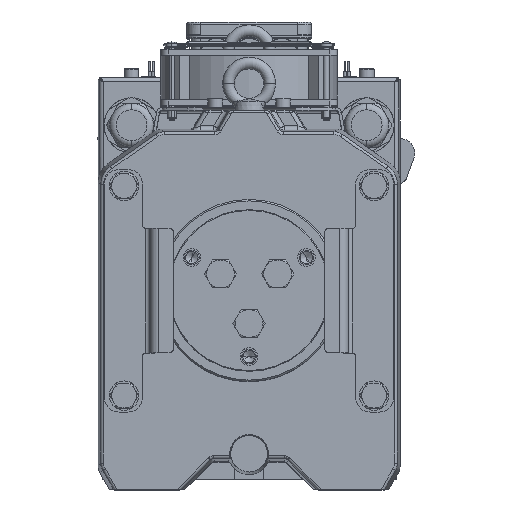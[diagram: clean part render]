
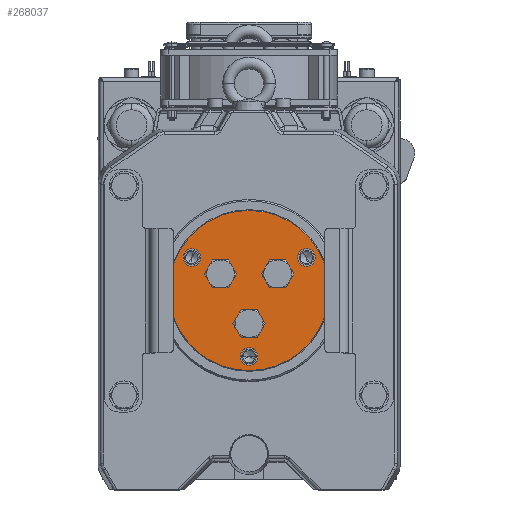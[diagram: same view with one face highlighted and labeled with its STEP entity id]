
A CAD part, top view. The second image highlights one B-rep face of the part: STEP entity #268037.
In plain terms, the highlighted planar face has unit normal (0, 0, 1) as drawn and (0, -1, 0) by its records, which use the part's own axes.
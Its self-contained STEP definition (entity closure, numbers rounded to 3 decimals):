
#267694=CARTESIAN_POINT('',(0.,0.,
0.));
#267695=DIRECTION('',(0.,-1.,0.));
#267696=DIRECTION('',(-1.,0.,0.));
#267697=AXIS2_PLACEMENT_3D('',#267694,#267695,#267696);
#267699=CARTESIAN_POINT('',(0.,0.,
0.));
#267700=DIRECTION('',(0.,-1.,0.));
#267701=DIRECTION('',(1.,0.,0.));
#267702=AXIS2_PLACEMENT_3D('',#267699,#267700,#267701);
#267704=CARTESIAN_POINT('',(0.,0.,-22.5));
#267705=DIRECTION('',(0.,-1.,0.));
#267706=DIRECTION('',(1.,0.,0.));
#267707=AXIS2_PLACEMENT_3D('',#267704,#267705,#267706);
#267709=CARTESIAN_POINT('',(0.,0.,-22.5));
#267710=DIRECTION('',(0.,-1.,0.));
#267711=DIRECTION('',(-1.,0.,0.));
#267712=AXIS2_PLACEMENT_3D('',#267709,#267710,#267711);
#267714=CARTESIAN_POINT('',(19.486,0.,11.25));
#267715=DIRECTION('',(0.,-1.,0.));
#267716=DIRECTION('',(-0.5,0.,0.866));
#267717=AXIS2_PLACEMENT_3D('',#267714,#267715,#267716);
#267719=CARTESIAN_POINT('',(19.486,0.,11.25));
#267720=DIRECTION('',(0.,-1.,0.));
#267721=DIRECTION('',(0.5,0.,-0.866));
#267722=AXIS2_PLACEMENT_3D('',#267719,#267720,#267721);
#267724=CARTESIAN_POINT('',(-19.486,0.,11.25));
#267725=DIRECTION('',(0.,-1.,0.));
#267726=DIRECTION('',(-0.5,0.,-0.866));
#267727=AXIS2_PLACEMENT_3D('',#267724,#267725,#267726);
#267729=CARTESIAN_POINT('',(-19.486,0.,11.25));
#267730=DIRECTION('',(0.,-1.,0.));
#267731=DIRECTION('',(0.5,0.,0.866));
#267732=AXIS2_PLACEMENT_3D('',#267729,#267730,#267731);
#267734=CARTESIAN_POINT('',(0.,0.,-45.));
#267735=DIRECTION('',(0.,-1.,0.));
#267736=DIRECTION('',(1.,0.,0.));
#267737=AXIS2_PLACEMENT_3D('',#267734,#267735,#267736);
#267739=CARTESIAN_POINT('',(0.,0.,-45.));
#267740=DIRECTION('',(0.,-1.,0.));
#267741=DIRECTION('',(-1.,0.,0.));
#267742=AXIS2_PLACEMENT_3D('',#267739,#267740,#267741);
#267744=CARTESIAN_POINT('',(38.971,0.,22.5));
#267745=DIRECTION('',(0.,-1.,0.));
#267746=DIRECTION('',(-0.5,0.,0.866));
#267747=AXIS2_PLACEMENT_3D('',#267744,#267745,#267746);
#267749=CARTESIAN_POINT('',(38.971,0.,22.5));
#267750=DIRECTION('',(0.,-1.,0.));
#267751=DIRECTION('',(0.5,0.,-0.866));
#267752=AXIS2_PLACEMENT_3D('',#267749,#267750,#267751);
#267754=CARTESIAN_POINT('',(-38.971,0.,22.5));
#267755=DIRECTION('',(0.,-1.,0.));
#267756=DIRECTION('',(-0.5,0.,-0.866));
#267757=AXIS2_PLACEMENT_3D('',#267754,#267755,#267756);
#267759=CARTESIAN_POINT('',(-38.971,0.,22.5));
#267760=DIRECTION('',(0.,-1.,0.));
#267761=DIRECTION('',(0.5,0.,0.866));
#267762=AXIS2_PLACEMENT_3D('',#267759,#267760,#267761);
#267938=CARTESIAN_POINT('',(6.5,0.,-22.5));
#267939=CARTESIAN_POINT('',(-6.5,0.,-22.5));
#267940=VERTEX_POINT('',#267938);
#267941=VERTEX_POINT('',#267939);
#267946=CARTESIAN_POINT('',(16.236,0.,16.879));
#267947=CARTESIAN_POINT('',(22.736,0.,5.621));
#267948=VERTEX_POINT('',#267946);
#267949=VERTEX_POINT('',#267947);
#267954=CARTESIAN_POINT('',(-22.736,0.,5.621));
#267955=CARTESIAN_POINT('',(-16.236,0.,16.879));
#267956=VERTEX_POINT('',#267954);
#267957=VERTEX_POINT('',#267955);
#267962=CARTESIAN_POINT('',(6.,0.,-45.));
#267963=CARTESIAN_POINT('',(-6.,0.,-45.));
#267964=VERTEX_POINT('',#267962);
#267965=VERTEX_POINT('',#267963);
#267970=CARTESIAN_POINT('',(35.971,0.,27.696));
#267971=CARTESIAN_POINT('',(41.971,0.,17.304));
#267972=VERTEX_POINT('',#267970);
#267973=VERTEX_POINT('',#267971);
#267978=CARTESIAN_POINT('',(-41.971,0.,17.304));
#267979=CARTESIAN_POINT('',(-35.971,0.,27.696));
#267980=VERTEX_POINT('',#267978);
#267981=VERTEX_POINT('',#267979);
#267986=CARTESIAN_POINT('',(-54.5,0.,0.));
#267987=CARTESIAN_POINT('',(54.5,0.,0.));
#267988=VERTEX_POINT('',#267986);
#267989=VERTEX_POINT('',#267987);
#267990=CARTESIAN_POINT('',(0.,0.,0.));
#267991=DIRECTION('',(0.,-1.,0.));
#267992=DIRECTION('',(-1.,0.,0.));
#267993=AXIS2_PLACEMENT_3D('',#267990,#267991,#267992);
#267994=PLANE('',#267993);
#267996=ORIENTED_EDGE('',*,*,#267995,.F.);
#267998=ORIENTED_EDGE('',*,*,#267997,.F.);
#267999=EDGE_LOOP('',(#267996,#267998));
#268000=FACE_OUTER_BOUND('',#267999,.F.);
#268002=ORIENTED_EDGE('',*,*,#268001,.T.);
#268004=ORIENTED_EDGE('',*,*,#268003,.T.);
#268005=EDGE_LOOP('',(#268002,#268004));
#268006=FACE_BOUND('',#268005,.F.);
#268008=ORIENTED_EDGE('',*,*,#268007,.T.);
#268010=ORIENTED_EDGE('',*,*,#268009,.T.);
#268011=EDGE_LOOP('',(#268008,#268010));
#268012=FACE_BOUND('',#268011,.F.);
#268014=ORIENTED_EDGE('',*,*,#268013,.T.);
#268016=ORIENTED_EDGE('',*,*,#268015,.T.);
#268017=EDGE_LOOP('',(#268014,#268016));
#268018=FACE_BOUND('',#268017,.F.);
#268020=ORIENTED_EDGE('',*,*,#268019,.T.);
#268022=ORIENTED_EDGE('',*,*,#268021,.T.);
#268023=EDGE_LOOP('',(#268020,#268022));
#268024=FACE_BOUND('',#268023,.F.);
#268026=ORIENTED_EDGE('',*,*,#268025,.T.);
#268028=ORIENTED_EDGE('',*,*,#268027,.T.);
#268029=EDGE_LOOP('',(#268026,#268028));
#268030=FACE_BOUND('',#268029,.F.);
#268032=ORIENTED_EDGE('',*,*,#268031,.T.);
#268034=ORIENTED_EDGE('',*,*,#268033,.T.);
#268035=EDGE_LOOP('',(#268032,#268034));
#268036=FACE_BOUND('',#268035,.F.);
#268037=ADVANCED_FACE('',(#268000,#268006,#268012,#268018,#268024,#268030,
#268036),#267994,.T.);
#267698=CIRCLE('',#267697,54.5);
#267703=CIRCLE('',#267702,54.5);
#267708=CIRCLE('',#267707,6.5);
#267713=CIRCLE('',#267712,6.5);
#267718=CIRCLE('',#267717,6.5);
#267723=CIRCLE('',#267722,6.5);
#267728=CIRCLE('',#267727,6.5);
#267733=CIRCLE('',#267732,6.5);
#267738=CIRCLE('',#267737,6.);
#267743=CIRCLE('',#267742,6.);
#267748=CIRCLE('',#267747,6.);
#267753=CIRCLE('',#267752,6.);
#267758=CIRCLE('',#267757,6.);
#267763=CIRCLE('',#267762,6.);
#267995=EDGE_CURVE('',#267988,#267989,#267698,.T.);
#267997=EDGE_CURVE('',#267989,#267988,#267703,.T.);
#268001=EDGE_CURVE('',#267940,#267941,#267708,.T.);
#268003=EDGE_CURVE('',#267941,#267940,#267713,.T.);
#268007=EDGE_CURVE('',#267948,#267949,#267718,.T.);
#268009=EDGE_CURVE('',#267949,#267948,#267723,.T.);
#268013=EDGE_CURVE('',#267956,#267957,#267728,.T.);
#268015=EDGE_CURVE('',#267957,#267956,#267733,.T.);
#268019=EDGE_CURVE('',#267964,#267965,#267738,.T.);
#268021=EDGE_CURVE('',#267965,#267964,#267743,.T.);
#268025=EDGE_CURVE('',#267972,#267973,#267748,.T.);
#268027=EDGE_CURVE('',#267973,#267972,#267753,.T.);
#268031=EDGE_CURVE('',#267980,#267981,#267758,.T.);
#268033=EDGE_CURVE('',#267981,#267980,#267763,.T.);
